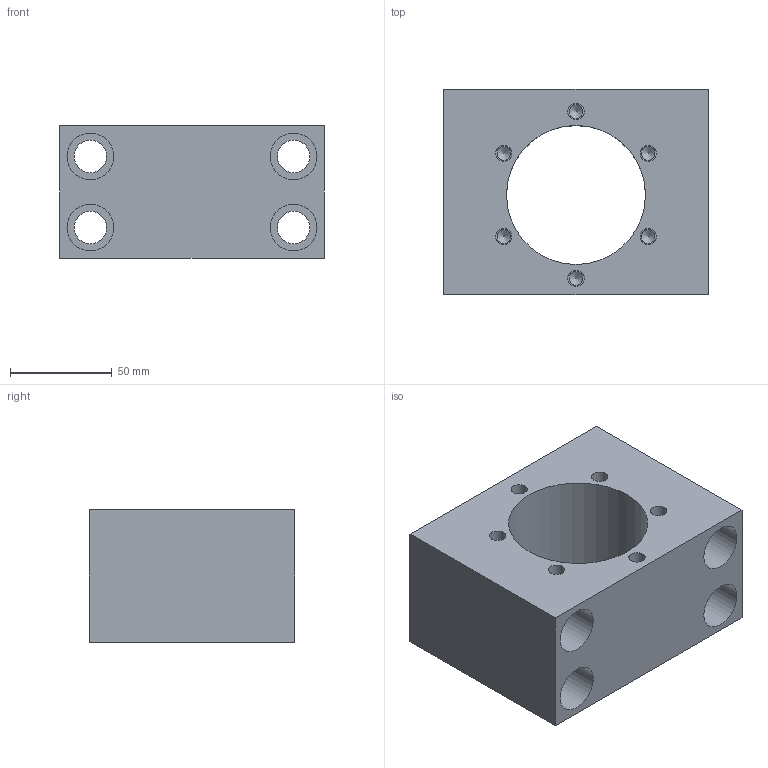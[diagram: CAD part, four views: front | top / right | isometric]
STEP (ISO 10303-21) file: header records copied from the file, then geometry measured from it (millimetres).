
FILE_DESCRIPTION(/* description */ (''),/* implementation_level */ '2;1');
FILE_NAME(/* name */ 'MGS50.stp',/* time_stamp */ '2017-01-04T16:05:18+08:00',/* author */ (''),/* organization */ (''),/* preprocessor_version */ 'ST-DEVELOPER v15',/* originating_system */ 'SIEMENS PLM Software NX 8.5',/* authorisation */ '');
FILE_SCHEMA (('AUTOMOTIVE_DESIGN { 1 0 10303 214 3 1 1 1 }'));
Length unit declared in the file: millimetre
Products named in the file (1): Admi05BC77158bdq
Bounding box: 130 x 101 x 65 mm (x, y, z)
Volume: 506292.6 mm3; surface area: 86397.7 mm2
Topology: 1 solids, 1 shells, 51 faces, 104 edges, 69 vertices
Faces by surface type: cylinder 25, plane 20, cone 6
Full cylindrical faces by diameter (mm): 6.7 x6, 8 x6, 16 x4, 18 x4, 23 x4, 68.4 x1
Entity records: 1182 total; most frequent: DIRECTION 216, CARTESIAN_POINT 178, ORIENTED_EDGE 124, FACE_BOUND 110, EDGE_LOOP 106, AXIS2_PLACEMENT_3D 102, VERTEX_POINT 64, EDGE_CURVE 62
